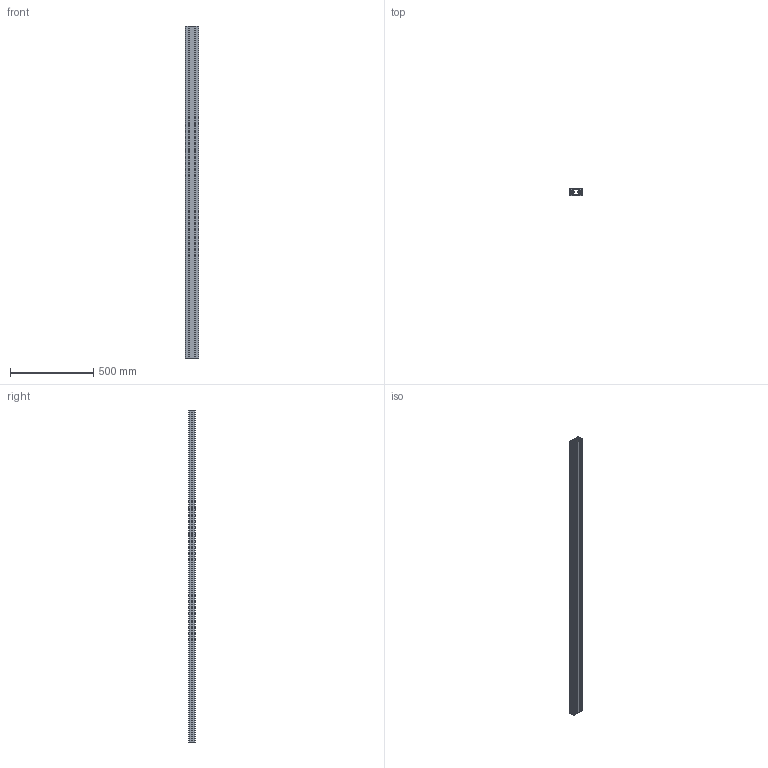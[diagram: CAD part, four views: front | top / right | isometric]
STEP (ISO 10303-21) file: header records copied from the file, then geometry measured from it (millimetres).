
FILE_DESCRIPTION(('STEP AP214'),'1');
FILE_NAME('CA.JU.8040.2000.stp','2020-03-16T08:17:39',(' '),(' '),'Spatial InterOp 3D',' ',' ');
FILE_SCHEMA(('AUTOMOTIVE_DESIGN { 1 0 10303 214 1 1 1 1 }'));
Length unit declared in the file: millimetre
Products named in the file (2): CA.JU.8040.2000
Assembly tree (1 placements, depth 2):
  CA.JU.8040.2000
    CA.JU.8040.2000
Bounding box: 80 x 40 x 2000 mm (x, y, z)
Volume: 1698551 mm3; surface area: 1761891.8 mm2
Topology: 1 solids, 1 shells, 236 faces, 702 edges, 468 vertices
Faces by surface type: plane 138, cylinder 98
Full cylindrical faces by diameter (mm): 5 x4, 12.5 x2
Entity records: 9931 total; most frequent: CARTESIAN_POINT 1402, ORIENTED_EDGE 1392, DIRECTION 1368, EDGE_CURVE 696, LINE 500, VECTOR 500, VERTEX_POINT 468, AXIS2_PLACEMENT_3D 434
